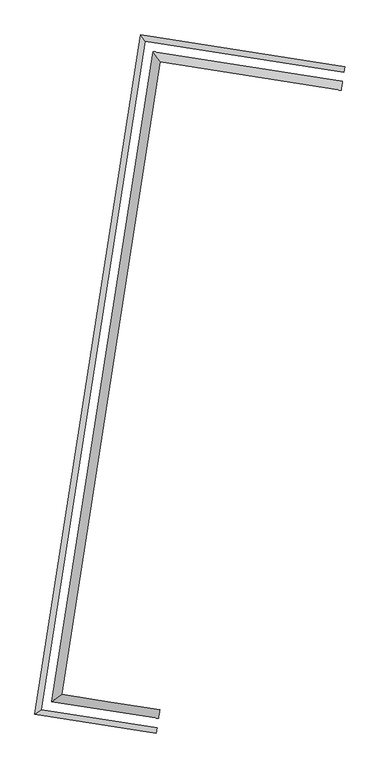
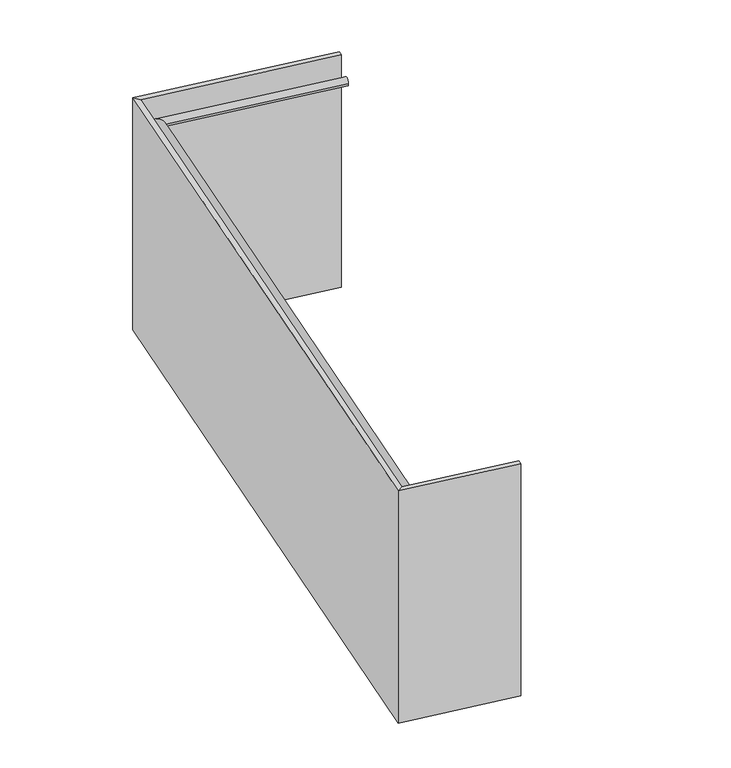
"""IFC4 building model written with IfcOpenShell, lengths in millimetres: railing geometry, Panel de vidrio - balcón."""

from ifc_helpers import new_model, si_unit, frame, origin, place, context, project, spatial, circle_curve, ellipse_curve, faceted_brep, source, transform, mapped, element, save
from ifc_brep_helpers import plane_surface, cylinder_surface, advanced_brep


def railing_f383f4ad(model_context):
    return source(origin(), model_context, "Body", "SolidModel", [
        faceted_brep([(-51971.2476536, -76454.7667005, 7345.385397), (-51975.0979006, -76479.4684332, 7345.385397), (-51975.0979006, -76479.4684332, 6145.385397), (-51971.2476536, -76454.7667005, 6145.385397), (-52896.9761124, -76310.4738588, 7345.385397), (-52876.1246267, -76339.0258385, 7345.385397), (-52876.1246267, -76339.0258385, 6145.385397), (-52896.9761124, -76310.4738588, 6145.385397), (-53376.5340454, -79387.1367016, 7345.385397), (-53347.9820657, -79366.2852159, 7345.385397), (-53347.9820657, -79366.2852159, 6145.385397), (-53376.5340454, -79387.1367016, 6145.385397), (-52826.27192, -79472.9057897, 7345.385397), (-52826.27192, -79472.9057897, 6145.385397), (-52822.421673, -79448.204057, 6145.385397), (-52822.421673, -79448.204057, 7345.385397)], [[[0, 1, 2, 3]], [[1, 0, 4, 5]], [[2, 1, 5, 6]], [[3, 2, 6, 7]], [[0, 3, 7, 4]], [[5, 4, 8, 9]], [[6, 5, 9, 10]], [[7, 6, 10, 11]], [[4, 7, 11, 8]], [[12, 13, 14, 15]], [[9, 8, 12, 15]], [[10, 9, 15, 14]], [[11, 10, 14, 13]], [[8, 11, 13, 12]]]),
        advanced_brep(
        [(-51987.712296, -76560.3976374, 7250.0), (-51981.5519009, -76520.874865, 7250.0), (-52807.809818, -76432.5694381, 7250.0), (-52841.1721951, -76386.8862706, 7250.0), (-53254.438466, -79297.9704071, 7250.0), (-53300.1216335, -79331.3327842, 7250.0), (-52809.8072776, -79367.2748528, 7250.0), (-52815.9676727, -79406.7976251, 7250.0)],
        [
            (0, 1, circle_curve(frame((-51984.6320984, -76540.6362512, 7250.0), z_axis=(0.9880693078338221, -0.1540098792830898, 0.0), x_axis=(0.1540098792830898, 0.9880693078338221, 0.0)), 20.0)),
            (1, 0, circle_curve(frame((-51984.6320984, -76540.6362512, 7250.0), z_axis=(0.9880693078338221, -0.1540098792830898, 0.0), x_axis=(0.1540098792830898, 0.9880693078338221, 0.0)), 20.0)),
            (0, 2),
            (2, 3, ellipse_curve(frame((-52824.4910066, -76409.7278544, 7250.0), z_axis=(0.8075719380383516, 0.5897690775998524, 0.0), x_axis=(0.5897690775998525, -0.8075719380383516, 0.0)), 28.2842712, 20.0)),
            (3, 1),
            (3, 2, ellipse_curve(frame((-52824.4910066, -76409.7278544, 7250.0), z_axis=(0.8075719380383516, 0.5897690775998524, 0.0), x_axis=(0.5897690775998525, -0.8075719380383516, 0.0)), 28.2842712, 20.0)),
            (2, 4),
            (4, 5, ellipse_curve(frame((-53277.2800497, -79314.6515957, 7250.0), z_axis=(-0.5897690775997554, 0.8075719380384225, 0.0), x_axis=(0.8075719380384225, 0.5897690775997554, 0.0)), 28.2842713, 20.0)),
            (5, 3),
            (5, 4, ellipse_curve(frame((-53277.2800497, -79314.6515957, 7250.0), z_axis=(-0.5897690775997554, 0.8075719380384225, 0.0), x_axis=(0.8075719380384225, 0.5897690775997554, 0.0)), 28.2842713, 20.0)),
            (6, 7, circle_curve(frame((-52812.8874751, -79387.0362389, 7250.0), z_axis=(0.9880693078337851, -0.15400987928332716, 0.0), x_axis=(-0.15400987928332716, -0.9880693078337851, 0.0)), 20.0)),
            (7, 6, circle_curve(frame((-52812.8874751, -79387.0362389, 7250.0), z_axis=(0.9880693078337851, -0.15400987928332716, 0.0), x_axis=(-0.15400987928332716, -0.9880693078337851, 0.0)), 20.0)),
            (4, 6),
            (7, 5),
        ],
        [
            plane_surface(frame((-51984.6320984, -76540.6362512, 7250.0), z_axis=(0.9880693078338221, -0.1540098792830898, 0.0), x_axis=(0.1540098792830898, 0.9880693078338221, 0.0))),
            cylinder_surface(frame((-51984.6320984, -76540.6362512, 7250.0), z_axis=(0.9880693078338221, -0.1540098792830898, 0.0), x_axis=(0.1540098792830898, 0.9880693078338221, 0.0)), 20.0),
            cylinder_surface(frame((-52824.4910066, -76409.7278544, 7250.0), z_axis=(0.15400987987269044, 0.9880693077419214, 0.0), x_axis=(-0.9880693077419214, 0.15400987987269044, 0.0)), 20.0),
            plane_surface(frame((-52812.8874751, -79387.0362389, 7250.0), z_axis=(0.988069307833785, -0.15400987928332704, 0.0), x_axis=(0.15400987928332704, 0.988069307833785, 0.0))),
            cylinder_surface(frame((-53277.2800497, -79314.6515957, 7250.0), z_axis=(-0.9880693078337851, 0.15400987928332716, 0.0), x_axis=(-0.15400987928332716, -0.9880693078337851, 0.0)), 20.0),
        ],
        [
            (0, [[1, 2]]),
            (1, [[-1, 3, 4, 5]]),
            (1, [[-2, -5, 6, -3]]),
            (2, [[-4, 7, 8, 9]]),
            (2, [[-6, -9, 10, -7]]),
            (3, [[11, 12]]),
            (4, [[-8, 13, -12, 14]]),
            (4, [[-10, -14, -11, -13]]),
        ],
    ),
    ])


if __name__ == "__main__":
    model = new_model("IFC4")
    model_context = context("Model", 3, world=origin())
    ifc_project = project(units=[si_unit("LENGTHUNIT", "METRE", prefix="MILLI")], contexts=[model_context])
    site = spatial("IfcSite", under=ifc_project)
    building = spatial("IfcBuilding", under=site)
    placement = place(None, origin())
    railing_shape = railing_f383f4ad(model_context)
    element("IfcRailing", 1, ObjectType="Panel de vidrio - balcón", at=placement, inside=building, context=model_context, shape_type="MappedRepresentation", body=[
        mapped(railing_shape, transform((0.0, 0.0, 0.0), x_axis=(1.0, 0.0, 0.0), y_axis=(0.0, 1.0, 0.0), z_axis=(0.0, 0.0, 1.0))),
    ])
    save(model, "model.ifc")
